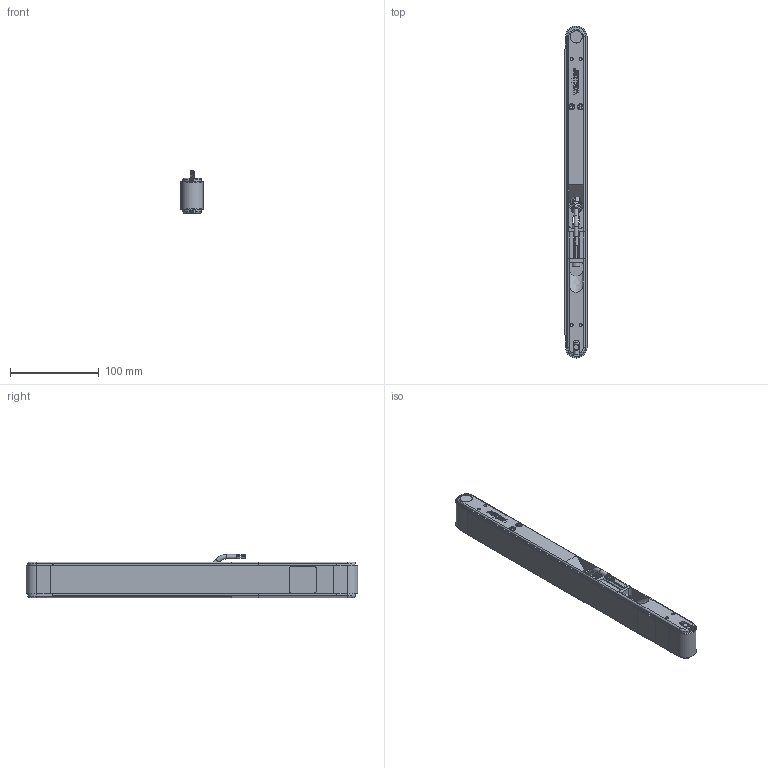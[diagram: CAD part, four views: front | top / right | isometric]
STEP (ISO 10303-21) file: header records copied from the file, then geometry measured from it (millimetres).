
FILE_DESCRIPTION(/* description */ (''),/* implementation_level */ '2;1');
FILE_NAME(/* name */ 'G:\DATEN\CAD\Förderband\Marketing\3D-Modelle (Standard)\FR-20-40\FR-20-40-DL-350-300-K.stp',/* time_stamp */ '2019-05-07T15:07:26+02:00',/* author */ ('melanie.ochs'),/* organization */ (''),/* preprocessor_version */ 'ST-DEVELOPER v17',/* originating_system */ 'Autodesk Inventor 2019',/* authorisation */ '');
FILE_SCHEMA (('CONFIG_CONTROL_DESIGN'));
Length unit declared in the file: centimetre
Products named in the file (1): FR-20-40-DL-350-300-K
Bounding box: 24.9 x 374.4 x 48.55 mm (x, y, z)
Volume: 288265.2 mm3; surface area: 156701.1 mm2
Topology: 35 solids, 36 shells, 962 faces, 2631 edges, 1787 vertices
Faces by surface type: plane 480, cylinder 246, cone 130, bspline 63, torus 43
Full cylindrical faces by diameter (mm): 1 x6, 2.459 x2, 2.5 x2, 2.693 x2, 3 x2, 3.242 x15, 4 x16, 4.3 x2, 4.5 x2, 4.917 x1, 5 x7, 5.5 x6, 6.647 x1, 6.773 x1, 7 x7, 8 x8, 8.5 x4, 8.773 x1, 9.6 x2, 10 x4, 11 x1, 12 x1, 14 x4, 16 x2, 22 x3
Entity records: 32424 total; most frequent: CARTESIAN_POINT 6976, ORIENTED_EDGE 5186, DIRECTION 5009, EDGE_CURVE 2593, AXIS2_PLACEMENT_3D 1825, VERTEX_POINT 1787, LINE 1359, VECTOR 1359
